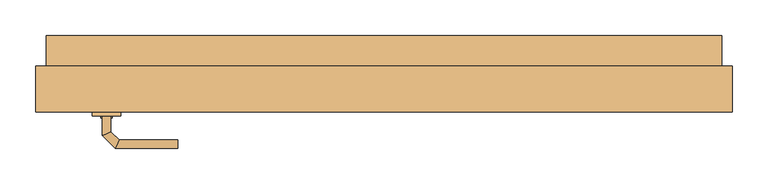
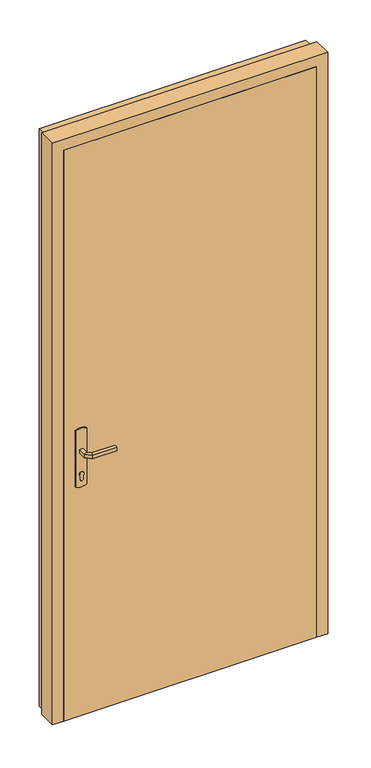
"""IFC4 building model written with IfcOpenShell, lengths in millimetres: door geometry, Entrée (avec angle d'ouverture) : PP Avec moulures (0.90 m x 2.15 m)."""

from ifc_helpers import new_model, si_unit, point, frame, frame_2d, origin, place, context, project, spatial, polyline, circle_curve, ellipse_curve, trimmed, segment, composite_curve, outline, extrude, faceted_brep, source, transform, mapped, element, save
from ifc_brep_helpers import plane_surface, cylinder_surface, advanced_brep


def door_d45fdbb8(model_context):
    return source(origin(), model_context, "Body", "SolidModel", [
        extrude(outline(composite_curve([segment(trimmed(circle_curve(frame_2d((904.6410162, -400.0)), 40.0), [point((870.0, -420.0))], [point((870.0, -380.0))], False, "CARTESIAN"), True, "CONTINUOUS"), segment(polyline([(870.0, -380.0), (1080.0, -380.0)]), True, "CONTINUOUS"), segment(trimmed(circle_curve(frame_2d((1045.3589838, -400.0)), 40.0), [point((1080.0, -380.0))], [point((1080.0, -420.0))], False, "CARTESIAN"), True, "CONTINUOUS"), segment(polyline([(1080.0, -420.0), (870.0, -420.0)]), True, "CONTINUOUS")], self_intersect=False)), frame((0.0, -103.0, 0.0), z_axis=(0.0, 1.0, 0.0), x_axis=(0.0, 0.0, 1.0)), (0.0, 0.0, 1.0), 5.0),
        extrude(outline(composite_curve([segment(trimmed(circle_curve(frame_2d((1045.3589838, -400.0)), 40.0), [point((1080.0, -380.0))], [point((1080.0, -420.0))], False, "CARTESIAN"), True, "CONTINUOUS"), segment(polyline([(1080.0, -420.0), (870.0, -420.0)]), True, "CONTINUOUS"), segment(trimmed(circle_curve(frame_2d((904.6410162, -400.0)), 40.0), [point((870.0, -420.0))], [point((870.0, -380.0))], False, "CARTESIAN"), True, "CONTINUOUS"), segment(polyline([(870.0, -380.0), (1080.0, -380.0)]), True, "CONTINUOUS")], self_intersect=False)), frame((0.0, -48.0, 0.0), z_axis=(0.0, 1.0, 0.0), x_axis=(0.0, 0.0, 1.0)), (0.0, 0.0, 1.0), 5.0),
        advanced_brep(
        [(-406.0, -103.0, 1007.0), (-394.0, -103.0, 1007.0), (-394.0, -103.0, 993.0), (-406.0, -103.0, 993.0), (-406.0, -130.6509507, 1007.0), (-394.0, -125.680388, 1007.0), (-394.0, -125.680388, 993.0), (-406.0, -130.6509507, 993.0), (-387.62279, -149.0281607, 1007.0), (-382.6522273, -137.0281607, 1007.0), (-382.6522273, -137.0281607, 993.0), (-387.62279, -149.0281607, 993.0), (-299.9813594, -149.0281607, 1007.0), (-299.9813594, -149.0281607, 993.0), (-299.9813594, -137.0281607, 993.0), (-299.9813594, -137.0281607, 1007.0)],
        [
            (0, 1, circle_curve(frame((-400.0, -103.0, 986.9542278), z_axis=(0.0, 1.0, 0.0), x_axis=(1.0, 0.0, 0.0)), 20.9244589)),
            (1, 2),
            (2, 3, circle_curve(frame((-400.0, -103.0, 1013.0457722), z_axis=(0.0, 1.0, 0.0), x_axis=(1.0, 0.0, 0.0)), 20.9244589)),
            (3, 0),
            (0, 4),
            (4, 5, ellipse_curve(frame((-400.0, -128.1656693, 986.9542278), z_axis=(-0.3826834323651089, 0.9238795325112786, 0.0), x_axis=(0.9238795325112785, 0.3826834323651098, 0.0)), 22.6484711, 20.9244589)),
            (5, 1),
            (5, 6),
            (6, 2),
            (6, 7, ellipse_curve(frame((-400.0, -128.1656693, 1013.0457722), z_axis=(-0.3826834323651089, 0.9238795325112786, 0.0), x_axis=(0.9238795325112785, 0.3826834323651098, 0.0)), 22.6484711, 20.9244589)),
            (7, 3),
            (7, 4),
            (4, 8),
            (8, 9, ellipse_curve(frame((-385.1375087, -143.0281607, 986.9542278), z_axis=(-0.9238795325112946, 0.38268343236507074, 0.0), x_axis=(0.3826834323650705, 0.9238795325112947, 0.0)), 22.6484711, 20.9244589)),
            (9, 5),
            (9, 10),
            (10, 6),
            (10, 11, ellipse_curve(frame((-385.1375087, -143.0281607, 1013.0457722), z_axis=(-0.9238795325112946, 0.38268343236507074, 0.0), x_axis=(0.3826834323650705, 0.9238795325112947, 0.0)), 22.6484711, 20.9244589)),
            (11, 7),
            (11, 8),
            (12, 13),
            (13, 14, circle_curve(frame((-299.9813594, -143.0281607, 1013.0457722), z_axis=(1.0, 0.0, 0.0), x_axis=(0.0, 1.0, 0.0)), 20.9244589)),
            (14, 15),
            (15, 12, circle_curve(frame((-299.9813594, -143.0281607, 986.9542278), z_axis=(1.0, 0.0, 0.0), x_axis=(0.0, 1.0, 0.0)), 20.9244589)),
            (8, 12),
            (15, 9),
            (14, 10),
            (13, 11),
        ],
        [
            plane_surface(frame((-409.2195445, -103.0, 1000.0), z_axis=(0.0, 1.0, 0.0), x_axis=(0.0, 0.0, -1.0))),
            cylinder_surface(frame((-400.0, -103.0, 986.9542278), z_axis=(0.0, 1.0, 0.0), x_axis=(1.0, 0.0, 0.0)), 20.9244589),
            plane_surface(frame((-394.0, -103.0, 1007.0), z_axis=(1.0, 0.0, 0.0), x_axis=(0.0, -1.0, 0.0))),
            cylinder_surface(frame((-400.0, -103.0, 1013.0457722), z_axis=(0.0, 1.0, 0.0), x_axis=(1.0, 0.0, 0.0)), 20.9244589),
            plane_surface(frame((-406.0, -103.0, 993.0), z_axis=(-1.0, 0.0, 0.0), x_axis=(0.0, -1.0, 0.0))),
            cylinder_surface(frame((-400.0, -128.1656693, 986.9542278), z_axis=(-0.7071067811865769, 0.7071067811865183, 0.0), x_axis=(0.7071067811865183, 0.7071067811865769, 0.0)), 20.9244589),
            plane_surface(frame((-394.0, -125.680388, 1007.0), z_axis=(0.7071067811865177, 0.7071067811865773, 0.0), x_axis=(0.7071067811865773, -0.7071067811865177, 0.0))),
            cylinder_surface(frame((-400.0, -128.1656693, 1013.0457722), z_axis=(-0.7071067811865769, 0.7071067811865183, 0.0), x_axis=(0.7071067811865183, 0.7071067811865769, 0.0)), 20.9244589),
            plane_surface(frame((-406.0, -130.6509507, 993.0), z_axis=(-0.7071067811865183, -0.7071067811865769, 0.0), x_axis=(0.7071067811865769, -0.7071067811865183, 0.0))),
            plane_surface(frame((-299.9813594, -143.0281607, 990.7804555), z_axis=(1.0, 0.0, 0.0), x_axis=(0.0, 1.0, 0.0))),
            cylinder_surface(frame((-385.1375087, -143.0281607, 986.9542278), z_axis=(-1.0, 0.0, 0.0), x_axis=(0.0, 1.0, 0.0)), 20.9244589),
            plane_surface(frame((-382.6522273, -137.0281607, 1007.0), z_axis=(0.0, 1.0, 0.0), x_axis=(1.0, 0.0, 0.0))),
            cylinder_surface(frame((-385.1375087, -143.0281607, 1013.0457722), z_axis=(-1.0, 0.0, 0.0), x_axis=(0.0, 1.0, 0.0)), 20.9244589),
            plane_surface(frame((-387.62279, -149.0281607, 993.0), z_axis=(0.0, -1.0, 0.0), x_axis=(1.0, 0.0, 0.0))),
        ],
        [
            (0, [[1, 2, 3, 4]]),
            (1, [[-1, 5, 6, 7]]),
            (2, [[-2, -7, 8, 9]]),
            (3, [[-3, -9, 10, 11]]),
            (4, [[-4, -11, 12, -5]]),
            (5, [[-6, 13, 14, 15]]),
            (6, [[-8, -15, 16, 17]]),
            (7, [[-10, -17, 18, 19]]),
            (8, [[-12, -19, 20, -13]]),
            (9, [[21, 22, 23, 24]]),
            (10, [[-14, 25, -24, 26]]),
            (11, [[-16, -26, -23, 27]]),
            (12, [[-18, -27, -22, 28]]),
            (13, [[-20, -28, -21, -25]]),
        ],
    ),
        advanced_brep(
        [(-394.0, -43.0, 993.0), (-394.0, -43.0, 1007.0), (-406.0, -43.0, 1007.0), (-406.0, -43.0, 993.0), (-394.0, -20.5147955, 993.0), (-394.0, -20.5147955, 1007.0), (-406.0, -15.5442327, 1007.0), (-406.0, -15.5442327, 993.0), (-382.5147186, -9.0295141, 993.0), (-382.5147186, -9.0295141, 1007.0), (-387.4852814, 2.9704859, 1007.0), (-387.4852814, 2.9704859, 993.0), (-299.9542164, -9.0295141, 993.0), (-299.9542164, 2.9704859, 993.0), (-299.9542164, 2.9704859, 1007.0), (-299.9542164, -9.0295141, 1007.0)],
        [
            (0, 1),
            (1, 2, circle_curve(frame((-400.0, -43.0, 986.9542278), z_axis=(0.0, -1.0, 0.0), x_axis=(-1.0, 0.0, 0.0)), 20.9244589)),
            (2, 3),
            (3, 0, circle_curve(frame((-400.0, -43.0, 1013.0457722), z_axis=(0.0, -1.0, 0.0), x_axis=(-1.0, 0.0, 0.0)), 20.9244589)),
            (0, 4),
            (4, 5),
            (5, 1),
            (5, 6, ellipse_curve(frame((-400.0, -18.0295141, 986.9542278), z_axis=(-0.3826834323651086, -0.923879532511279, 0.0), x_axis=(0.9238795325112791, -0.3826834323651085, 0.0)), 22.6484711, 20.9244589)),
            (6, 2),
            (6, 7),
            (7, 3),
            (7, 4, ellipse_curve(frame((-400.0, -18.0295141, 1013.0457722), z_axis=(-0.3826834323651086, -0.923879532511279, 0.0), x_axis=(0.9238795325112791, -0.3826834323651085, 0.0)), 22.6484711, 20.9244589)),
            (4, 8),
            (8, 9),
            (9, 5),
            (9, 10, ellipse_curve(frame((-385.0, -3.0295141, 986.9542278), z_axis=(-0.9238795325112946, -0.38268343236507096, 0.0), x_axis=(0.3826834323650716, -0.9238795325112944, 0.0)), 22.6484711, 20.9244589)),
            (10, 6),
            (10, 11),
            (11, 7),
            (11, 8, ellipse_curve(frame((-385.0, -3.0295141, 1013.0457722), z_axis=(-0.9238795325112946, -0.38268343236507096, 0.0), x_axis=(0.3826834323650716, -0.9238795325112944, 0.0)), 22.6484711, 20.9244589)),
            (12, 13, circle_curve(frame((-299.9542164, -3.0295141, 1013.0457722), z_axis=(1.0, 0.0, 0.0), x_axis=(0.0, 1.0, 0.0)), 20.9244589)),
            (13, 14),
            (14, 15, circle_curve(frame((-299.9542164, -3.0295141, 986.9542278), z_axis=(1.0, 0.0, 0.0), x_axis=(0.0, 1.0, 0.0)), 20.9244589)),
            (15, 12),
            (8, 12),
            (15, 9),
            (14, 10),
            (13, 11),
        ],
        [
            plane_surface(frame((-409.2195445, -43.0, 1000.0), z_axis=(0.0, -1.0, 0.0), x_axis=(0.0, 0.0, 1.0))),
            plane_surface(frame((-394.0, -43.0, 993.0), z_axis=(1.0, 0.0, 0.0), x_axis=(0.0, 1.0, 0.0))),
            cylinder_surface(frame((-400.0, -43.0, 986.9542278), z_axis=(0.0, -1.0, 0.0), x_axis=(-1.0, 0.0, 0.0)), 20.9244589),
            plane_surface(frame((-406.0, -43.0, 1007.0), z_axis=(-1.0, 0.0, 0.0), x_axis=(0.0, 1.0, 0.0))),
            cylinder_surface(frame((-400.0, -43.0, 1013.0457722), z_axis=(0.0, -1.0, 0.0), x_axis=(-1.0, 0.0, 0.0)), 20.9244589),
            plane_surface(frame((-394.0, -20.5147955, 993.0), z_axis=(0.7071067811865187, -0.7071067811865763, 0.0), x_axis=(0.7071067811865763, 0.7071067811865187, 0.0))),
            cylinder_surface(frame((-400.0, -18.0295141, 986.9542278), z_axis=(-0.7071067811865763, -0.7071067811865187, 0.0), x_axis=(-0.7071067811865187, 0.7071067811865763, 0.0)), 20.9244589),
            plane_surface(frame((-406.0, -15.5442327, 1007.0), z_axis=(-0.7071067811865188, 0.7071067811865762, 0.0), x_axis=(0.7071067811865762, 0.7071067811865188, 0.0))),
            cylinder_surface(frame((-400.0, -18.0295141, 1013.0457722), z_axis=(-0.7071067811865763, -0.7071067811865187, 0.0), x_axis=(-0.7071067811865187, 0.7071067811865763, 0.0)), 20.9244589),
            plane_surface(frame((-299.9542164, -3.0295141, 990.7804555), z_axis=(1.0, 0.0, 0.0), x_axis=(0.0, 1.0, 0.0))),
            plane_surface(frame((-382.5147186, -9.0295141, 993.0), z_axis=(0.0, -1.0, 0.0), x_axis=(1.0, 0.0, 0.0))),
            cylinder_surface(frame((-385.0, -3.0295141, 986.9542278), z_axis=(-1.0, 0.0, 0.0), x_axis=(0.0, 1.0, 0.0)), 20.9244589),
            plane_surface(frame((-387.4852814, 2.9704859, 1007.0), z_axis=(0.0, 1.0, 0.0), x_axis=(1.0, 0.0, 0.0))),
            cylinder_surface(frame((-385.0, -3.0295141, 1013.0457722), z_axis=(-1.0, 0.0, 0.0), x_axis=(0.0, 1.0, 0.0)), 20.9244589),
        ],
        [
            (0, [[1, 2, 3, 4]]),
            (1, [[-1, 5, 6, 7]]),
            (2, [[-2, -7, 8, 9]]),
            (3, [[-3, -9, 10, 11]]),
            (4, [[-4, -11, 12, -5]]),
            (5, [[-6, 13, 14, 15]]),
            (6, [[-8, -15, 16, 17]]),
            (7, [[-10, -17, 18, 19]]),
            (8, [[-12, -19, 20, -13]]),
            (9, [[21, 22, 23, 24]]),
            (10, [[-14, 25, -24, 26]]),
            (11, [[-16, -26, -23, 27]]),
            (12, [[-18, -27, -22, 28]]),
            (13, [[-20, -28, -21, -25]]),
        ],
    ),
        extrude(outline(composite_curve([segment(polyline([(908.0464422, -405.0), (895.0, -405.0)]), True, "CONTINUOUS"), segment(trimmed(circle_curve(frame_2d((895.0, -400.0)), 5.0), [point((895.0, -405.0))], [point((895.0, -395.0))], False, "CARTESIAN"), True, "CONTINUOUS"), segment(polyline([(895.0, -395.0), (908.0464422, -395.0)]), True, "CONTINUOUS"), segment(trimmed(circle_curve(frame_2d((914.2914402, -400.0)), 8.0), [point((908.0464422, -395.0))], [point((908.0464422, -405.0))], False, "CARTESIAN"), True, "CONTINUOUS")], self_intersect=False)), frame((0.0, -106.0, 0.0), z_axis=(0.0, 1.0, 0.0), x_axis=(0.0, 0.0, 1.0)), (0.0, 0.0, 1.0), 3.0),
        extrude(outline(composite_curve([segment(polyline([(908.0464422, -405.0), (895.0, -405.0)]), True, "CONTINUOUS"), segment(trimmed(circle_curve(frame_2d((895.0, -400.0)), 5.0), [point((895.0, -405.0))], [point((895.0, -395.0))], False, "CARTESIAN"), True, "CONTINUOUS"), segment(polyline([(895.0, -395.0), (908.0464422, -395.0)]), True, "CONTINUOUS"), segment(trimmed(circle_curve(frame_2d((914.2914402, -400.0)), 8.0), [point((908.0464422, -395.0))], [point((908.0464422, -405.0))], False, "CARTESIAN"), True, "CONTINUOUS")], self_intersect=False)), frame((0.0, -43.0, 0.0), z_axis=(0.0, 1.0, 0.0), x_axis=(0.0, 0.0, 1.0)), (0.0, 0.0, 1.0), 5.0),
        faceted_brep([(440.0, -98.0, 2150.0), (-460.0, -98.0, 2150.0), (-460.0, -98.0, 0.0), (440.0, -98.0, 0.0), (440.0, -48.0, 2150.0), (440.0, -48.0, 0.0), (-460.0, -48.0, 0.0), (-460.0, -48.0, 2150.0), (-340.0, -48.0, 2030.0), (-340.0, -48.0, 883.3333333), (320.0, -48.0, 883.3333333), (320.0, -48.0, 2030.0), (20.0, -48.0, 763.3333333), (20.0, -48.0, 220.0), (320.0, -48.0, 220.0), (320.0, -48.0, 763.3333333), (-340.0, -48.0, 763.3333333), (-340.0, -48.0, 220.0), (-40.0, -48.0, 220.0), (-40.0, -48.0, 763.3333333), (-305.0, -48.0, 918.3333333), (-305.0, -48.0, 1995.0), (285.0, -48.0, 1995.0), (285.0, -48.0, 918.3333333), (55.0, -48.0, 255.0), (55.0, -48.0, 728.3333333), (285.0, -48.0, 728.3333333), (285.0, -48.0, 255.0), (-305.0, -48.0, 255.0), (-305.0, -48.0, 728.3333333), (-75.0, -48.0, 728.3333333), (-75.0, -48.0, 255.0), (-336.4644661, -51.5355339, 2026.4644661), (-336.4644661, -51.5355339, 886.8688672), (-308.5355339, -51.5355339, 914.7977994), (-308.5355339, -51.5355339, 1998.5355339), (-312.6388478, -49.8966861, 910.6944856), (-312.6388478, -49.8966861, 2002.6388478), (-311.0, -51.5355339, 2001.0), (-311.0, -51.5355339, 912.3333333), (-334.0, -51.5355339, 889.3333333), (-334.0, -51.5355339, 2024.0), (-332.3611522, -49.8966861, 2022.3611522), (-332.3611522, -49.8966861, 890.9721811), (316.4644661, -51.5355339, 2026.4644661), (288.5355339, -51.5355339, 1998.5355339), (292.6388478, -49.8966861, 2002.6388478), (291.0, -51.5355339, 2001.0), (314.0, -51.5355339, 2024.0), (312.3611522, -49.8966861, 2022.3611522), (316.4644661, -51.5355339, 886.8688672), (288.5355339, -51.5355339, 914.7977994), (292.6388478, -49.8966861, 910.6944856), (291.0, -51.5355339, 912.3333333), (314.0, -51.5355339, 889.3333333), (312.3611522, -49.8966861, 890.9721811), (23.5355339, -51.5355339, 759.7977994), (23.5355339, -51.5355339, 223.5355339), (51.4644661, -51.5355339, 251.4644661), (51.4644661, -51.5355339, 731.8688672), (47.3611522, -49.8966861, 247.3611522), (47.3611522, -49.8966861, 735.9721811), (49.0, -51.5355339, 734.3333333), (49.0, -51.5355339, 249.0), (26.0, -51.5355339, 226.0), (26.0, -51.5355339, 757.3333333), (27.6388478, -49.8966861, 755.6944856), (27.6388478, -49.8966861, 227.6388478), (316.4644661, -51.5355339, 759.7977994), (288.5355339, -51.5355339, 731.8688672), (292.6388478, -49.8966861, 735.9721811), (291.0, -51.5355339, 734.3333333), (314.0, -51.5355339, 757.3333333), (312.3611522, -49.8966861, 755.6944856), (316.4644661, -51.5355339, 223.5355339), (288.5355339, -51.5355339, 251.4644661), (292.6388478, -49.8966861, 247.3611522), (291.0, -51.5355339, 249.0), (314.0, -51.5355339, 226.0), (312.3611522, -49.8966861, 227.6388478), (-336.4644661, -51.5355339, 759.7977994), (-336.4644661, -51.5355339, 223.5355339), (-308.5355339, -51.5355339, 251.4644661), (-308.5355339, -51.5355339, 731.8688672), (-312.6388478, -49.8966861, 247.3611522), (-312.6388478, -49.8966861, 735.9721811), (-311.0, -51.5355339, 734.3333333), (-311.0, -51.5355339, 249.0), (-334.0, -51.5355339, 226.0), (-334.0, -51.5355339, 757.3333333), (-332.3611522, -49.8966861, 755.6944856), (-332.3611522, -49.8966861, 227.6388478), (-43.5355339, -51.5355339, 759.7977994), (-71.4644661, -51.5355339, 731.8688672), (-67.3611522, -49.8966861, 735.9721811), (-69.0, -51.5355339, 734.3333333), (-46.0, -51.5355339, 757.3333333), (-47.6388478, -49.8966861, 755.6944856), (-43.5355339, -51.5355339, 223.5355339), (-71.4644661, -51.5355339, 251.4644661), (-67.3611522, -49.8966861, 247.3611522), (-69.0, -51.5355339, 249.0), (-46.0, -51.5355339, 226.0), (-47.6388478, -49.8966861, 227.6388478)], [[[0, 1, 2, 3]], [[4, 5, 6, 7], [8, 9, 10, 11], [12, 13, 14, 15], [16, 17, 18, 19]], [[20, 21, 22, 23]], [[24, 25, 26, 27]], [[28, 29, 30, 31]], [[1, 0, 4, 7]], [[2, 1, 7, 6]], [[3, 2, 6, 5]], [[0, 3, 5, 4]], [[8, 32, 33, 9]], [[34, 35, 21, 20]], [[36, 37, 38, 39]], [[40, 41, 42, 43]], [[32, 8, 11, 44]], [[21, 35, 45, 22]], [[38, 37, 46, 47]], [[42, 41, 48, 49]], [[44, 11, 10, 50]], [[22, 45, 51, 23]], [[47, 46, 52, 53]], [[49, 48, 54, 55]], [[9, 33, 50, 10]], [[34, 20, 23, 51]], [[39, 38, 47, 53], [35, 34, 51, 45]], [[36, 39, 53, 52]], [[43, 42, 49, 55], [37, 36, 52, 46]], [[40, 43, 55, 54]], [[33, 32, 44, 50], [41, 40, 54, 48]], [[12, 56, 57, 13]], [[58, 59, 25, 24]], [[60, 61, 62, 63]], [[64, 65, 66, 67]], [[56, 12, 15, 68]], [[25, 59, 69, 26]], [[62, 61, 70, 71]], [[66, 65, 72, 73]], [[68, 15, 14, 74]], [[26, 69, 75, 27]], [[71, 70, 76, 77]], [[73, 72, 78, 79]], [[13, 57, 74, 14]], [[58, 24, 27, 75]], [[63, 62, 71, 77], [59, 58, 75, 69]], [[60, 63, 77, 76]], [[67, 66, 73, 79], [61, 60, 76, 70]], [[64, 67, 79, 78]], [[57, 56, 68, 74], [65, 64, 78, 72]], [[16, 80, 81, 17]], [[82, 83, 29, 28]], [[84, 85, 86, 87]], [[88, 89, 90, 91]], [[80, 16, 19, 92]], [[29, 83, 93, 30]], [[86, 85, 94, 95]], [[90, 89, 96, 97]], [[92, 19, 18, 98]], [[30, 93, 99, 31]], [[95, 94, 100, 101]], [[97, 96, 102, 103]], [[17, 81, 98, 18]], [[82, 28, 31, 99]], [[87, 86, 95, 101], [83, 82, 99, 93]], [[84, 87, 101, 100]], [[91, 90, 97, 103], [85, 84, 100, 94]], [[88, 91, 103, 102]], [[81, 80, 92, 98], [89, 88, 102, 96]]]),
        faceted_brep([(-440.0, -48.0, 0.0), (420.0, -48.0, 0.0), (420.0, -48.0, 150.0), (410.0, -48.0, 160.0), (-430.0, -48.0, 160.0), (-440.0, -48.0, 150.0), (420.0, -33.0, 0.0), (-440.0, -33.0, 0.0), (-440.0, -33.0, 150.0), (420.0, -33.0, 150.0), (410.0, -43.0, 160.0), (-430.0, -43.0, 160.0)], [[[0, 1, 2, 3, 4, 5]], [[6, 7, 8, 9]], [[7, 0, 5, 8]], [[1, 0, 7, 6]], [[1, 6, 9, 2]], [[4, 3, 10, 11]], [[9, 10, 3, 2]], [[10, 9, 8, 11]], [[11, 8, 5, 4]]]),
        faceted_brep([(-500.0, -33.0, 0.0), (-445.0, -33.0, 0.0), (-445.0, -48.0, 0.0), (-460.0, -48.0, 0.0), (-460.0, -98.0, 0.0), (-500.0, -98.0, 0.0), (-500.0, -33.0, 2190.0), (480.0, -33.0, 2190.0), (480.0, -33.0, 0.0), (425.0, -33.0, 0.0), (425.0, -33.0, 2135.0), (-445.0, -33.0, 2135.0), (-445.0, -48.0, 2135.0), (425.0, -48.0, 2135.0), (425.0, -48.0, 0.0), (440.0, -48.0, 0.0), (440.0, -48.0, 2150.0), (-460.0, -48.0, 2150.0), (-460.0, -98.0, 2150.0), (440.0, -98.0, 2150.0), (440.0, -98.0, 0.0), (480.0, -98.0, 0.0), (480.0, -98.0, 2190.0), (-500.0, -98.0, 2190.0)], [[[0, 1, 2, 3, 4, 5]], [[1, 0, 6, 7, 8, 9, 10, 11]], [[2, 1, 11, 12]], [[3, 2, 12, 13, 14, 15, 16, 17]], [[4, 3, 17, 18]], [[5, 4, 18, 19, 20, 21, 22, 23]], [[0, 5, 23, 6]], [[7, 22, 21, 8]], [[8, 21, 20, 15, 14, 9]], [[13, 10, 9, 14]], [[19, 16, 15, 20]], [[12, 11, 10, 13]], [[18, 17, 16, 19]], [[6, 23, 22, 7]]]),
        extrude(outline(polyline([(0.0, -485.0), (0.0, -470.0), (2160.0, -470.0), (2160.0, 450.0), (0.0, 450.0), (0.0, 465.0), (2175.0, 465.0), (2175.0, -485.0), (0.0, -485.0)])), frame((0.0, -33.0, 0.0), z_axis=(0.0, 1.0, 0.0), x_axis=(0.0, 0.0, 1.0)), (0.0, 0.0, 1.0), 43.0),
    ])


if __name__ == "__main__":
    model = new_model("IFC4")
    model_context = context("Model", 3, world=origin())
    ifc_project = project(units=[si_unit("LENGTHUNIT", "METRE", prefix="MILLI")], contexts=[model_context])
    site = spatial("IfcSite", under=ifc_project)
    building = spatial("IfcBuilding", under=site)
    placement = place(None, origin())
    door_shape = door_d45fdbb8(model_context)
    element("IfcDoor", 1, ObjectType="Entrée (avec angle d'ouverture) : PP Avec moulures (0.90 m x 2.15 m)", at=placement, inside=building, context=model_context, shape_type="MappedRepresentation", body=[
        mapped(door_shape, transform((0.0, 0.0, 0.0), x_axis=(1.0, 0.0, 0.0), y_axis=(0.0, 1.0, 0.0), z_axis=(0.0, 0.0, 1.0))),
    ])
    save(model, "model.ifc")
